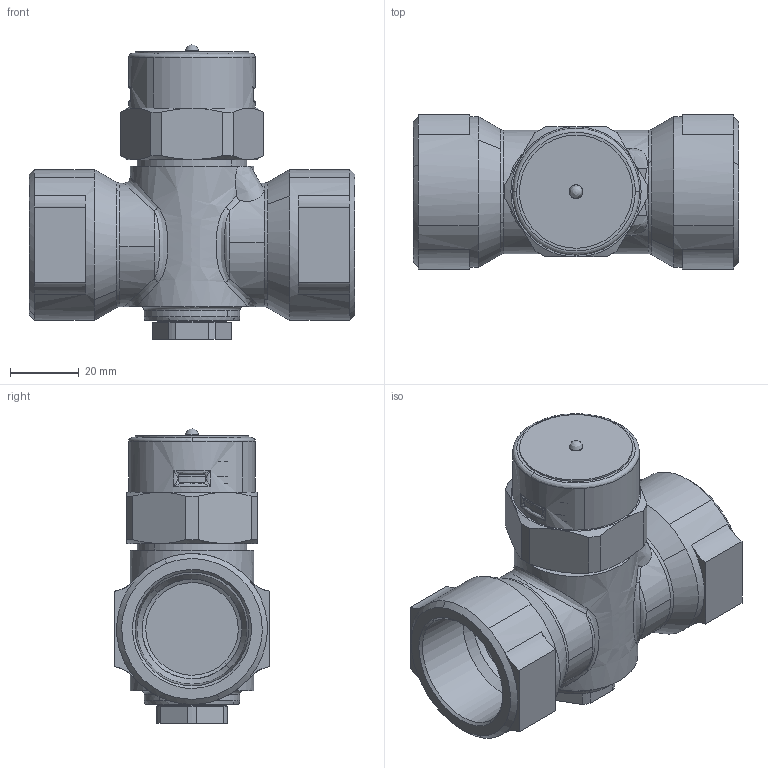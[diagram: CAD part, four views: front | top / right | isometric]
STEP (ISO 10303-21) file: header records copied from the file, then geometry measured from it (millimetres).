
FILE_DESCRIPTION((''),'2;1');
FILE_NAME('','2018-10-31T16:20:52',(''),(''),'','CADfix','');
FILE_SCHEMA(('AUTOMOTIVE_DESIGN { 1 0 10303 214 1 1 1 1 }'));
Length unit declared in the file: millimetre
Products named in the file (8): TSD-42 25A 本体　3D; TSD-42F 僉儍僢僾A 3D; TSD-42F 曐壏僇僶乕丂3D; TSD-42F 銘板　3D; TSD-42F gasket; TSD-42F 銘板鋲; TSD-42F strainer cap; TSD-42 25A CAD外観図　3D_38
Assembly tree (7 placements, depth 2):
  TSD-42 25A CAD外観図　3D_38
    TSD-42 25A 本体　3D
    TSD-42F 僉儍僢僾A 3D
    TSD-42F 曐壏僇僶乕丂3D
    TSD-42F 銘板　3D
    TSD-42F gasket
    TSD-42F 銘板鋲
    TSD-42F strainer cap
Bounding box: 95 x 45 x 85.9 mm (x, y, z)
Volume: 131814.6 mm3; surface area: 40512 mm2
Topology: 7 solids, 7 shells, 299 faces, 1035 edges, 757 vertices
Faces by surface type: bspline 299
Entity records: 18836 total; most frequent: CARTESIAN_POINT 12880, ORIENTED_EDGE 2036, EDGE_CURVE 1018, VERTEX_POINT 757, B_SPLINE_CURVE_WITH_KNOTS 695, EDGE_LOOP 329, FACE_OUTER_BOUND 299, ADVANCED_FACE 299
